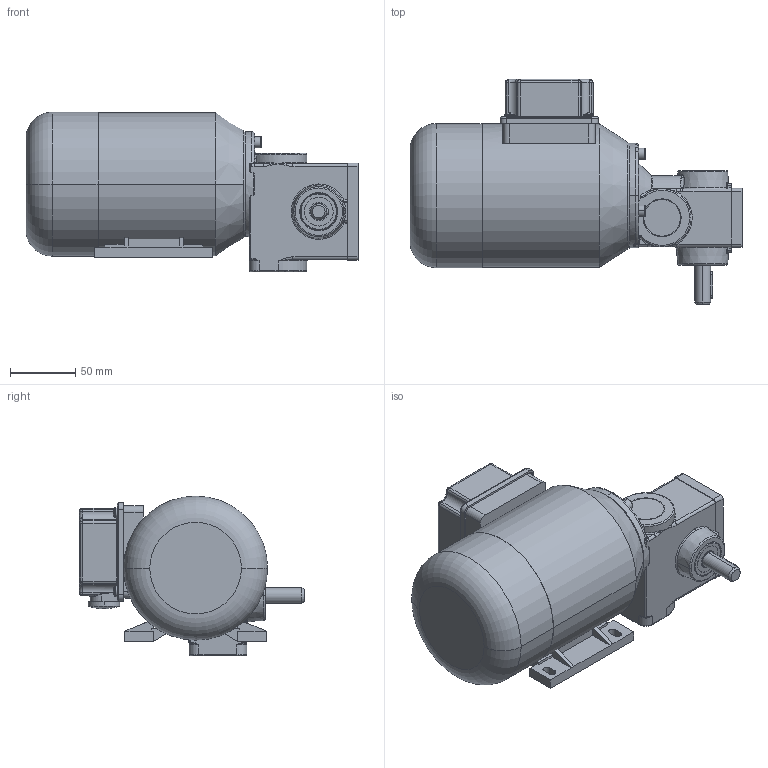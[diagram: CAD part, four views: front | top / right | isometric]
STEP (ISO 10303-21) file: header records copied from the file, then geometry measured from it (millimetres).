
FILE_DESCRIPTION (( 'STEP AP214' ), '1' );
FILE_NAME ('SN6_120W_2800Upm_Drehstrom-Motor_A.STEP', '2021-08-11T06:05:25', ( '' ), ( '' ), 'SwSTEP 2.0', 'SolidWorks 2019', '' );
FILE_SCHEMA (( 'AUTOMOTIVE_DESIGN' ));
Length unit declared in the file: millimetre
Products named in the file (12): SN6_120W_2800Upm_Drehstrom-Motor_A; 06-G-001_3D_Export; 06-W-001_3D_Export; PF_A4x4x20; socket head cap screw_iso_ISO 4762 M5 x 16 - 16C; 06-M-066 I 120W_2800Upm_B3; K_28x9.0; SN6_3D_Export; 06F-D-003_3D-Export; NBR_WDR_12x28x7; K_28x4.0; socket head cap screw_iso_ISO 4762 M3 x 10 - 10C
Assembly tree (17 placements, depth 3):
  SN6_120W_2800Upm_Drehstrom-Motor_A
    SN6_3D_Export
      06-G-001_3D_Export
      06F-D-003_3D-Export
      06-W-001_3D_Export
      PF_A4x4x20
      NBR_WDR_12x28x7
      K_28x9.0
      K_28x4.0  x2
      socket head cap screw_iso_ISO 4762 M5 x 16 - 16C  x3
      socket head cap screw_iso_ISO 4762 M3 x 10 - 10C  x4
    06-M-066 I 120W_2800Upm_B3
Bounding box: 253.5 x 171.9 x 122 mm (x, y, z)
Volume: 1964336.8 mm3; surface area: 181560.5 mm2
Topology: 19 solids, 19 shells, 1043 faces, 2551 edges, 1540 vertices
Faces by surface type: plane 324, cylinder 314, torus 169, cone 152, bspline 49, sphere 35
Entity records: 30202 total; most frequent: CARTESIAN_POINT 8101, DIRECTION 4803, ORIENTED_EDGE 4390, EDGE_CURVE 2195, AXIS2_PLACEMENT_3D 1984, VERTEX_POINT 1366, CIRCLE 1111, EDGE_LOOP 973
